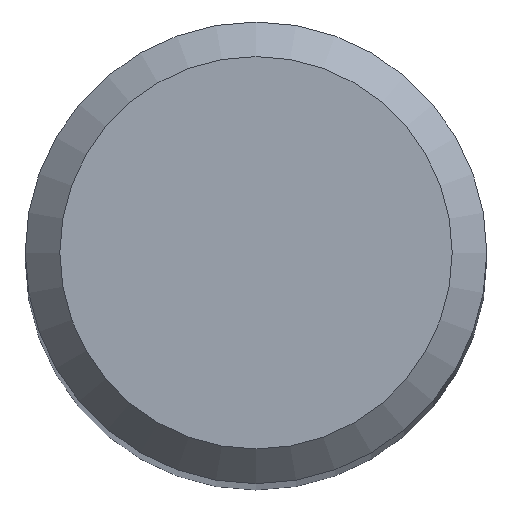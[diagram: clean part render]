
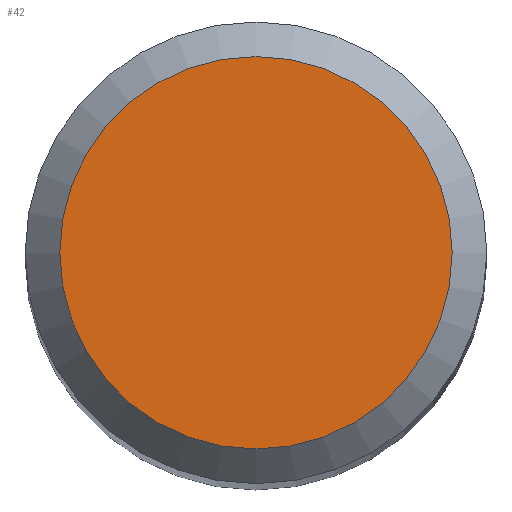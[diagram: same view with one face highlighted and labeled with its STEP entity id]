
A CAD part, top view. The second image highlights one B-rep face of the part: STEP entity #42.
In plain terms, the highlighted planar face has unit normal (0, 0, 1).
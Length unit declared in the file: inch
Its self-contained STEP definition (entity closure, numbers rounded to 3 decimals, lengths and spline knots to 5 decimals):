
#1 = FACE_OUTER_BOUND ( 'NONE', #46, .T. ) ;
#4 = DIRECTION ( 'NONE',  ( 0., 0., 1. ) ) ;
#20 = PLANE ( 'NONE',  #83 ) ;
#38 = DIRECTION ( 'NONE',  ( 0., 0., 1. ) ) ;
#41 = CIRCLE ( 'NONE', #73, 0.37187 ) ;
#42 = ADVANCED_FACE ( 'NONE', ( #1 ), #20, .T. ) ;
#46 = EDGE_LOOP ( 'NONE', ( #66 ) ) ;
#52 = DIRECTION ( 'NONE',  ( 1., 0., 0. ) ) ;
#62 = CARTESIAN_POINT ( 'NONE',  ( 0.37187, 0., 3.5 ) ) ;
#66 = ORIENTED_EDGE ( 'NONE', *, *, #112, .T. ) ;
#73 = AXIS2_PLACEMENT_3D ( 'NONE', #129, #4, #52 ) ;
#83 = AXIS2_PLACEMENT_3D ( 'NONE', #126, #38, #102 ) ;
#102 = DIRECTION ( 'NONE',  ( 1., 0., 0. ) ) ;
#110 = VERTEX_POINT ( 'NONE', #62 ) ;
#112 = EDGE_CURVE ( 'NONE', #110, #110, #41, .T. ) ;
#126 = CARTESIAN_POINT ( 'NONE',  ( 0., 0., 3.5 ) ) ;
#129 = CARTESIAN_POINT ( 'NONE',  ( 0., 0., 3.5 ) ) ;
